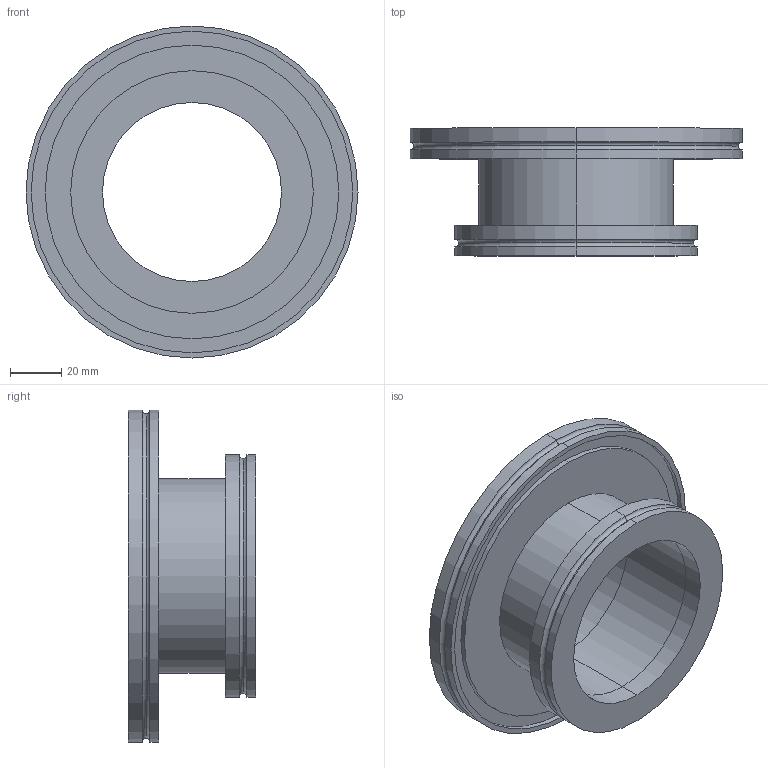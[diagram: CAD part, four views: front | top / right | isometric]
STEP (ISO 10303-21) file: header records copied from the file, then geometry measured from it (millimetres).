
FILE_DESCRIPTION (( 'STEP AP214' ), '1' );
FILE_NAME ('W4RS63-100.STEP', '2020-10-05T12:46:49', ( '' ), ( '' ), 'SwSTEP 2.0', 'SolidWorks 2020', '' );
FILE_SCHEMA (( 'AUTOMOTIVE_DESIGN' ));
Length unit declared in the file: millimetre
Products named in the file (1): W4RS63-100
Bounding box: 130 x 50 x 130 mm (x, y, z)
Volume: 152149.4 mm3; surface area: 60747.2 mm2
Topology: 3 solids, 3 shells, 51 faces, 102 edges, 64 vertices
Faces by surface type: cylinder 30, plane 13, torus 8
Entity records: 1416 total; most frequent: DIRECTION 278, CARTESIAN_POINT 218, ORIENTED_EDGE 204, AXIS2_PLACEMENT_3D 124, EDGE_CURVE 102, CIRCLE 72, EDGE_LOOP 64, VERTEX_POINT 64
